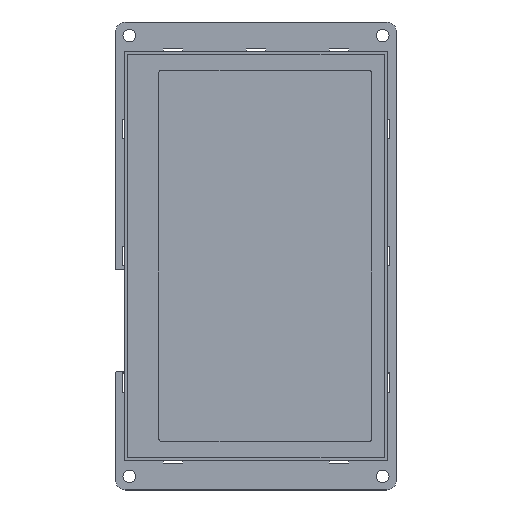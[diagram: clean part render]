
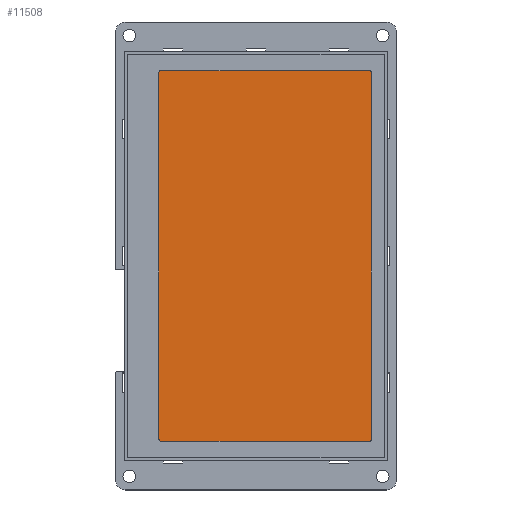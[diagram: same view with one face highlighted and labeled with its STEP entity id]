
A CAD part, top view. The second image highlights one B-rep face of the part: STEP entity #11508.
In plain terms, the highlighted planar face has unit normal (0, 0, 1).
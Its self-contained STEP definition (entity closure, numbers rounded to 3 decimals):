
#3450=DIRECTION('',(1.,0.,0.));
#3451=VECTOR('',#3450,54.36);
#3452=CARTESIAN_POINT('',(-24.798,-48.275,8.225));
#3453=LINE('',#3452,#3451);
#3462=DIRECTION('',(0.,-1.,0.));
#3463=VECTOR('',#3462,95.54);
#3464=CARTESIAN_POINT('',(-25.298,47.765,8.225));
#3465=LINE('',#3464,#3463);
#3474=DIRECTION('',(-1.,0.,0.));
#3475=VECTOR('',#3474,54.36);
#3476=CARTESIAN_POINT('',(29.562,48.265,8.225));
#3477=LINE('',#3476,#3475);
#3486=DIRECTION('',(0.,1.,0.));
#3487=VECTOR('',#3486,95.54);
#3488=CARTESIAN_POINT('',(30.062,-47.775,8.225));
#3489=LINE('',#3488,#3487);
#3490=CARTESIAN_POINT('',(29.562,-47.775,8.225));
#3491=DIRECTION('',(0.,0.,-1.));
#3492=DIRECTION('',(1.,0.,0.));
#3493=AXIS2_PLACEMENT_3D('',#3490,#3491,#3492);
#3495=CARTESIAN_POINT('',(-24.798,-47.775,8.225));
#3496=DIRECTION('',(0.,0.,-1.));
#3497=DIRECTION('',(0.,-1.,0.));
#3498=AXIS2_PLACEMENT_3D('',#3495,#3496,#3497);
#3500=CARTESIAN_POINT('',(-24.798,47.765,8.225));
#3501=DIRECTION('',(0.,0.,-1.));
#3502=DIRECTION('',(-1.,0.,0.));
#3503=AXIS2_PLACEMENT_3D('',#3500,#3501,#3502);
#3505=CARTESIAN_POINT('',(29.562,47.765,8.225));
#3506=DIRECTION('',(0.,0.,-1.));
#3507=DIRECTION('',(0.,1.,0.));
#3508=AXIS2_PLACEMENT_3D('',#3505,#3506,#3507);
#4828=CARTESIAN_POINT('',(29.562,-48.275,8.225));
#4829=VERTEX_POINT('',#4828);
#4830=CARTESIAN_POINT('',(30.062,-47.775,8.225));
#4831=VERTEX_POINT('',#4830);
#4832=CARTESIAN_POINT('',(-24.798,-48.275,8.225));
#4833=VERTEX_POINT('',#4832);
#4834=CARTESIAN_POINT('',(-25.298,-47.775,8.225));
#4835=VERTEX_POINT('',#4834);
#4836=CARTESIAN_POINT('',(-25.298,47.765,8.225));
#4837=VERTEX_POINT('',#4836);
#4838=CARTESIAN_POINT('',(-24.798,48.265,8.225));
#4839=VERTEX_POINT('',#4838);
#4840=CARTESIAN_POINT('',(29.562,48.265,8.225));
#4841=VERTEX_POINT('',#4840);
#4842=CARTESIAN_POINT('',(30.062,47.765,8.225));
#4843=VERTEX_POINT('',#4842);
#11493=CARTESIAN_POINT('',(-33.558,-52.305,8.225));
#11494=DIRECTION('',(0.,0.,1.));
#11495=DIRECTION('',(0.,-1.,0.));
#11496=AXIS2_PLACEMENT_3D('',#11493,#11494,#11495);
#11497=PLANE('',#11496);
#11498=ORIENTED_EDGE('',*,*,#11389,.T.);
#11499=ORIENTED_EDGE('',*,*,#11404,.F.);
#11500=ORIENTED_EDGE('',*,*,#11418,.T.);
#11501=ORIENTED_EDGE('',*,*,#11432,.F.);
#11502=ORIENTED_EDGE('',*,*,#11446,.T.);
#11503=ORIENTED_EDGE('',*,*,#11460,.F.);
#11504=ORIENTED_EDGE('',*,*,#11474,.T.);
#11505=ORIENTED_EDGE('',*,*,#11487,.F.);
#11506=EDGE_LOOP('',(#11498,#11499,#11500,#11501,#11502,#11503,#11504,#11505));
#11507=FACE_OUTER_BOUND('',#11506,.F.);
#3494=CIRCLE('',#3493,0.5);
#3499=CIRCLE('',#3498,0.5);
#3504=CIRCLE('',#3503,0.5);
#3509=CIRCLE('',#3508,0.5);
#11389=EDGE_CURVE('',#4831,#4829,#3494,.T.);
#11404=EDGE_CURVE('',#4833,#4829,#3453,.T.);
#11418=EDGE_CURVE('',#4833,#4835,#3499,.T.);
#11432=EDGE_CURVE('',#4837,#4835,#3465,.T.);
#11446=EDGE_CURVE('',#4837,#4839,#3504,.T.);
#11460=EDGE_CURVE('',#4841,#4839,#3477,.T.);
#11474=EDGE_CURVE('',#4841,#4843,#3509,.T.);
#11487=EDGE_CURVE('',#4831,#4843,#3489,.T.);
#11508=ADVANCED_FACE('',(#11507),#11497,.T.);
